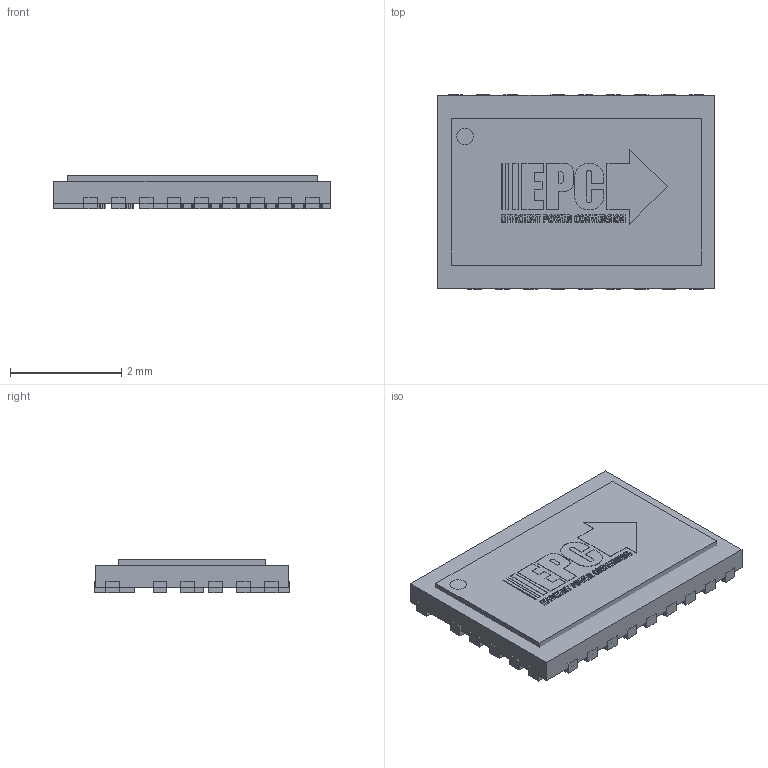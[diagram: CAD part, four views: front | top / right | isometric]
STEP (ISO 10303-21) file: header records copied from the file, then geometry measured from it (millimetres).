
FILE_DESCRIPTION(/* description */ ('FreeCAD Model'),/* implementation_level */ '2;1');
FILE_NAME(/* name */ 'METUPowerLab_Transistors_GaNFETs_PowerStages_13-PowerWFQFN v2.step',/* time_stamp */ '2025-07-31T21:29:08+03:00',/* author */ (''),/* organization */ (''),/* preprocessor_version */ 'ST-DEVELOPER v20.1',/* originating_system */ 'Autodesk Translation Framework v14.10.0.0',/* authorisation */ '');
FILE_SCHEMA (('AUTOMOTIVE_DESIGN { 1 0 10303 214 3 1 1 }'));
Length unit declared in the file: millimetre
Products named in the file (63): D0727; EPClogo3mm; Extrude024; Extrude; Extrude001; Extrude002; Extrude003; Extrude004; Extrude005; Extrude006; Extrude007; Extrude008; Extrude009; Extrude010; Extrude011; Extrude012; Extrude013; Extrude014; Extrude015; Extrude016; Extrude017; Extrude018; Extrude019; Extrude020; Extrude021; Extrude022; Extrude023; Green008; Green001; Green002; Green003; Green004; Green005; Green006; Green007; 7928239488; Extruded; 7928237648; Extruded001; 7928239008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
Assembly tree (66 placements, depth 4):
  D0727
    EPClogo3mm
      Extrude024
        Extrude
        Extrude001
        Extrude002
        Extrude003
        Extrude004
        Extrude005
        Extrude006
        Extrude007
        Extrude008
        Extrude009
        Extrude010
        Extrude011
        Extrude012
        Extrude013
        Extrude014
        Extrude015
        Extrude016
        Extrude017
        Extrude018
        Extrude019
        Extrude020
        Extrude021
        Extrude022
        Extrude023
      Green008
        Green001
        Green002
        Green003
        Green004
        Green005
        Green006
        Green007
    7928239488
      Extruded
    7928237648
      Extruded001
    7928239008
      Extruded002
    7928245408
      Extruded003
    7928245888
      Extruded004
    7928245888001
      Extruded004
    7928241008
      Extruded006
    7928243568
      Extruded007
    7928243568001
      Extruded007
    7928243568002
      Extruded007
    7928245008
      Extruded010
    7928243968
      Extruded011
    7928237488
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Bounding box: 5 x 3.5 x 0.61 mm (x, y, z)
Surface area: 96 mm2
Topology: 47 solids, 47 shells, 800 faces, 2118 edges, 1412 vertices
Faces by surface type: plane 695, bspline 104, cylinder 1
Full cylindrical faces by diameter (mm): 0.3 x1
Entity records: 24972 total; most frequent: CARTESIAN_POINT 5439, ORIENTED_EDGE 3924, DIRECTION 3326, EDGE_CURVE 1962, LINE 1752, VECTOR 1752, VERTEX_POINT 1308, AXIS2_PLACEMENT_3D 787
